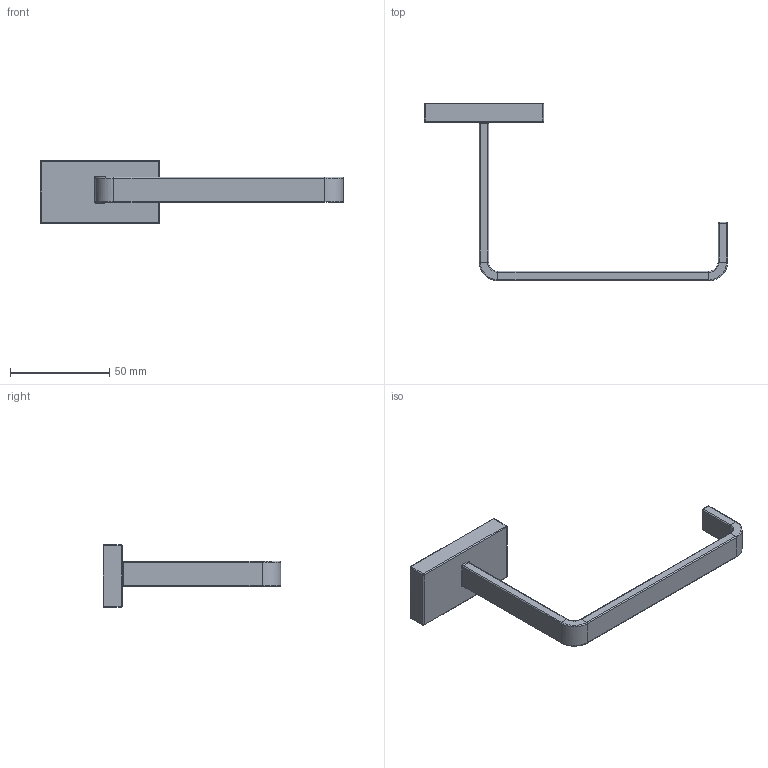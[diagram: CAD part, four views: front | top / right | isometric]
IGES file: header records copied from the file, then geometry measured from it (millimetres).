
Start section: Autodesk Alias AutoStudio 2020 (Build: 201905142046-4cbec609ad) Autodesk Translation Framework 8.4.1.1053
Global section: file name: 12133010; native system: unknown; preprocessor: unknown; author: unknown; organization: unknown; date: 20220803.150111; units: millimetre
Bounding box: 152.68 x 89.38 x 31.7 mm (x, y, z)
Surface area: 25873.2 mm2 (no closed solid volume)
Topology: 0 solids, 2 shells, 79 faces, 172 edges, 88 vertices
Faces by surface type: bspline 79
